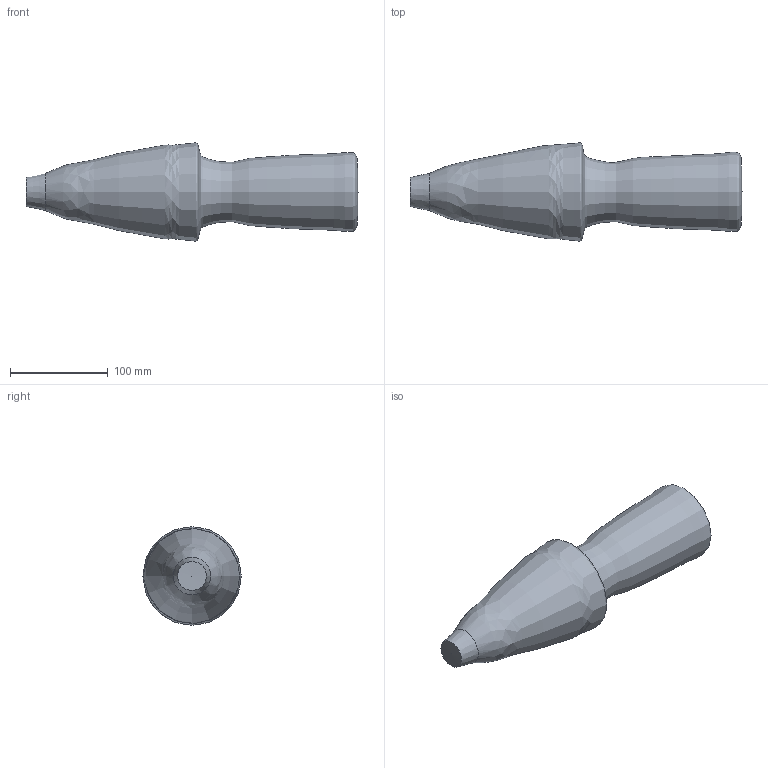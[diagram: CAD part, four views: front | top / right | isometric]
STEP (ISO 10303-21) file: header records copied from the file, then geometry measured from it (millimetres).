
FILE_DESCRIPTION((''),'2;1');
FILE_NAME('J:\Projekte\Kunststoff-Blechteile\Zeichnungen\Bibliothek Inventor\3D Solids\pico+\STP\detection range 25 plate.stp','2009-05-11T13:46:34',('Oliver Liedtke'),(''),'Autodesk Inventor 2009','Autodesk Inventor 2009','');
FILE_SCHEMA(('AUTOMOTIVE_DESIGN { 1 0 10303 214 1 1 1 1 }'));
Length unit declared in the file: millimetre
Products named in the file (1): detection range 25 plate
Bounding box: 340.2 x 100.79 x 100.8 mm (x, y, z)
Volume: 1468219.5 mm3; surface area: 86303.2 mm2
Topology: 1 solids, 1 shells, 3 faces, 7 edges, 4 vertices
Faces by surface type: cone 2, bspline 1
Entity records: 382 total; most frequent: CARTESIAN_POINT 298, DIRECTION 10, ORIENTED_EDGE 6, AXIS2_PLACEMENT_3D 5, EDGE_LOOP 4, VERTEX_POINT 3, EDGE_CURVE 3, FACE_OUTER_BOUND 3
